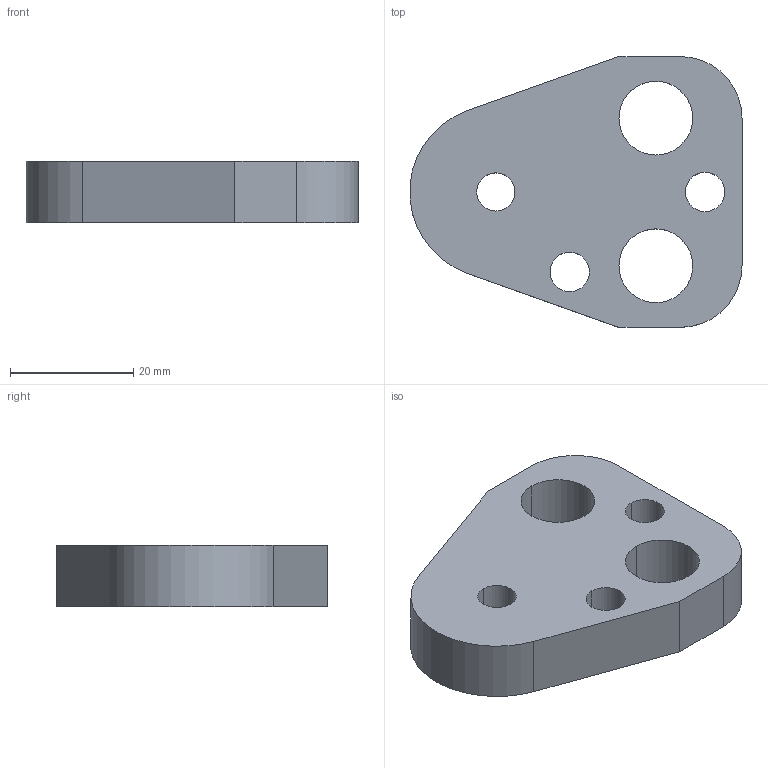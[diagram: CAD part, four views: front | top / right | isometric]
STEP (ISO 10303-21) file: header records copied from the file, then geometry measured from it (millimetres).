
FILE_DESCRIPTION(/* description */ (''),/* implementation_level */ '2;1');
FILE_NAME(/* name */ '3d_bpc16-10_03409_r00.stp',/* time_stamp */ '2011-01-10T14:17:10+09:00',/* author */ ('MISUMI'),/* organization */ (''),/* preprocessor_version */ 'ST-DEVELOPER v11',/* originating_system */ 'UGS - NX 5.0',/* authorisation */ '');
FILE_SCHEMA (('CONFIG_CONTROL_DESIGN'));
Length unit declared in the file: millimetre
Products named in the file (1): 3d_bpc16-10_03409_r00
Bounding box: 53.95 x 44 x 10 mm (x, y, z)
Volume: 15642.8 mm3; surface area: 6102.1 mm2
Topology: 1 solids, 1 shells, 20 faces, 54 edges, 36 vertices
Faces by surface type: cylinder 13, plane 7
Entity records: 750 total; most frequent: DIRECTION 122, CARTESIAN_POINT 111, ORIENTED_EDGE 108, EDGE_CURVE 54, AXIS2_PLACEMENT_3D 47, VERTEX_POINT 36, EDGE_LOOP 30, LINE 28
